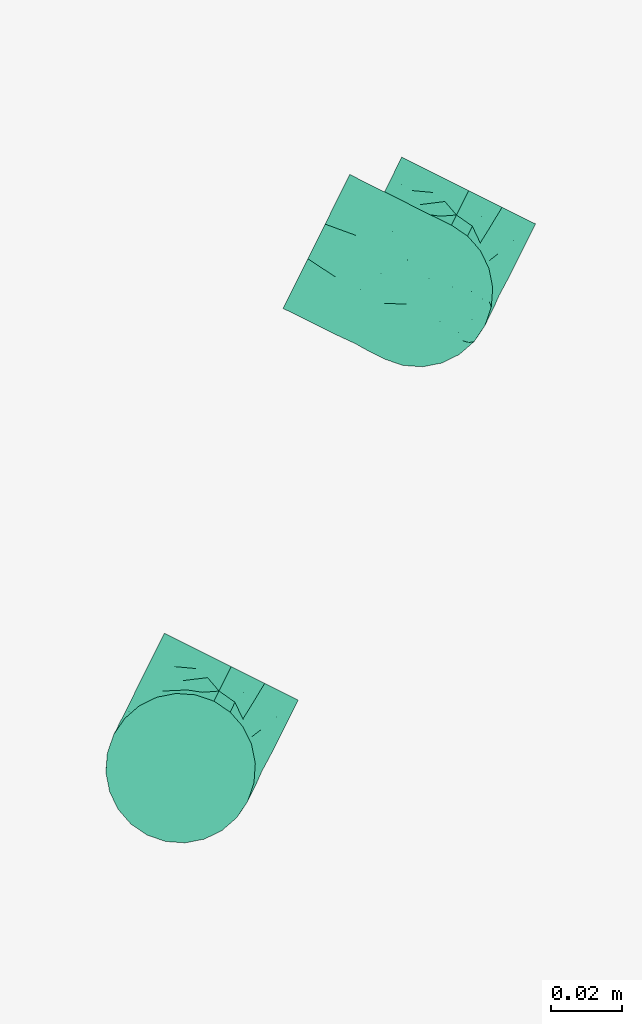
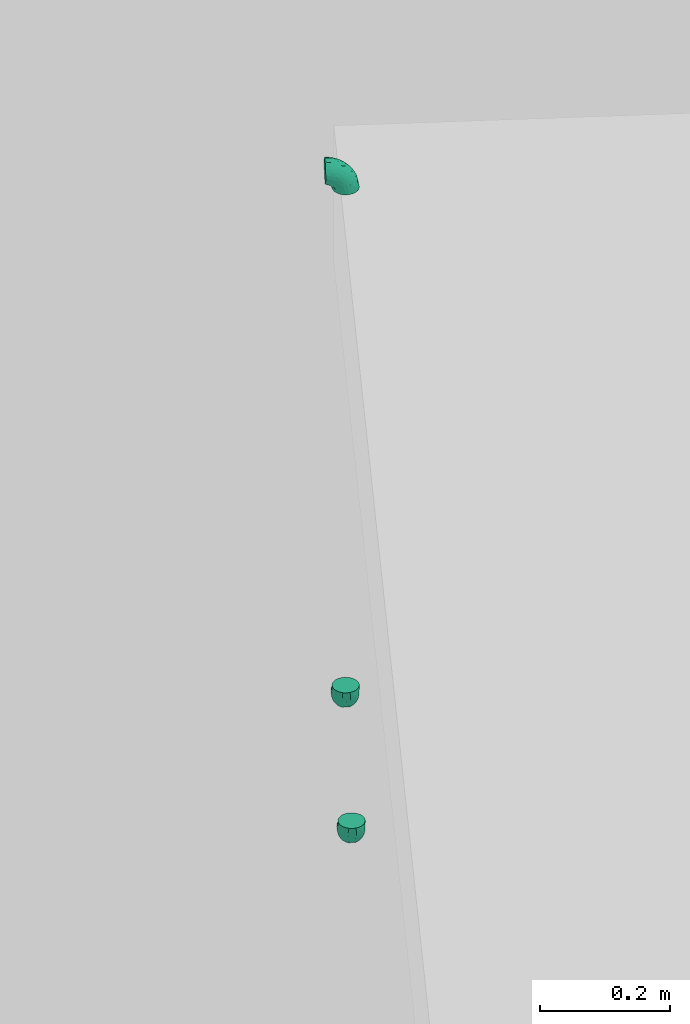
# One storey, part 38 of 47: 3 flow fittings.
"""IFC2X3 building model written with IfcOpenShell, lengths in metres."""

from ifc_helpers import new_model, entity, si_unit, converted_unit, derived_unit, direction, frame, origin, place, context, subcontext, project, spatial, faceted_brep, source, transform, mapped, type_object, type_shapes, element, save


model = new_model("IFC2X3")

# Units and contexts
model_context = context("Model", 3, precision=1e-05, world=origin(), true_north=direction((0.894925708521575, 0.446215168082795)))
context_of_model = context(None, 3, precision=1e-05, world=origin(), true_north=direction((0.894925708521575, 0.446215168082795)))
body_context = subcontext(model_context, "Body", "Model", "MODEL_VIEW")
ifc_project = project(units=[si_unit("LENGTHUNIT", "METRE"), si_unit("AREAUNIT", "SQUARE_METRE"), si_unit("VOLUMEUNIT", "CUBIC_METRE"), converted_unit("PLANEANGLEUNIT", "DEGREE", entity("IfcRatioMeasure", 0.0174532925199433), si_unit("PLANEANGLEUNIT", "RADIAN"), dimensions=[0, 0, 0, 0, 0, 0, 0]), si_unit("MASSUNIT", "GRAM", prefix="KILO"), si_unit("TIMEUNIT", "SECOND"), si_unit("FREQUENCYUNIT", "HERTZ"), si_unit("THERMODYNAMICTEMPERATUREUNIT", "DEGREE_CELSIUS"), derived_unit("THERMALTRANSMITTANCEUNIT", [(si_unit("MASSUNIT", "GRAM", prefix="KILO"), 1), (si_unit("THERMODYNAMICTEMPERATUREUNIT", "KELVIN"), -1), (si_unit("TIMEUNIT", "SECOND"), -3)]), derived_unit("VOLUMETRICFLOWRATEUNIT", [(si_unit("LENGTHUNIT", "METRE"), 3), (si_unit("TIMEUNIT", "SECOND"), -1)]), si_unit("ELECTRICCURRENTUNIT", "AMPERE"), si_unit("ELECTRICVOLTAGEUNIT", "VOLT"), si_unit("POWERUNIT", "WATT"), si_unit("FORCEUNIT", "NEWTON", prefix="KILO"), si_unit("ILLUMINANCEUNIT", "LUX"), si_unit("LUMINOUSFLUXUNIT", "LUMEN"), si_unit("LUMINOUSINTENSITYUNIT", "CANDELA"), si_unit("PRESSUREUNIT", "PASCAL")], contexts=[model_context, context_of_model])

# Site, building, storey
site_placement = place(None, frame((218.228324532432, 584.720189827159, 0.0), z_axis=(0.0, 0.0, 1.0), x_axis=(0.446215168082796, 0.894925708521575, 0.0)))
site = spatial("IfcSite", under=ifc_project, at=site_placement, Name="Default", CompositionType="ELEMENT")
building_placement = place(site_placement, origin())
building = spatial("IfcBuilding", under=site, at=building_placement, CompositionType="ELEMENT")
storey_placement = place(building_placement, frame((0.0, 0.0, 4.69)))
storey = spatial("IfcBuildingStorey", under=building, at=storey_placement, Name="1 - Piano Primo", CompositionType="ELEMENT", Elevation=4.69)

# Flow fittings
pipe_fitting_type = type_object("IfcPipeFittingType", Name="Standard", PredefinedType="NOTDEFINED")
shared_shape = source(origin(), body_context, "Body", "Brep", [
    faceted_brep([(-0.0319999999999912, 0.0105499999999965, -0.0182731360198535), (-0.0319999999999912, 0.00546108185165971, -0.0203810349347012), (-0.0319999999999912, 0.0, -0.0211000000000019), (-0.0319999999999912, -0.00546108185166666, -0.0203810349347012), (-0.0319999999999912, -0.0105500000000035, -0.0182731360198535), (-0.0319999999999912, -0.0149199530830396, -0.0149199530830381), (-0.0319999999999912, -0.0182731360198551, -0.0105500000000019), (-0.0319999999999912, -0.0203810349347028, -0.00546108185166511), (-0.0319999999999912, -0.0211000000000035, 0.0), (-0.0319999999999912, -0.0203810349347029, 0.00546108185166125), (-0.0319999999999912, -0.0182731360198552, 0.0105499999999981), (-0.0319999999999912, -0.0149199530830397, 0.0149199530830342), (-0.0319999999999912, -0.0105500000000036, 0.0182731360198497), (-0.0319999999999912, -0.00546108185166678, 0.0203810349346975), (-0.0319999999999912, 0.0, 0.0210999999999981), (-0.0319999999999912, 0.00546108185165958, 0.0203810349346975), (-0.0319999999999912, 0.00800554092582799, 0.0193270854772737), (-0.0319999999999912, 0.0105499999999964, 0.0182731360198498), (-0.0319999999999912, 0.0149199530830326, 0.0149199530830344), (-0.0319999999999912, 0.0182731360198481, 0.0105499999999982), (-0.0319999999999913, 0.0203810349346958, 0.00546108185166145), (-0.0319999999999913, 0.0210999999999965, 0.0), (-0.0319999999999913, 0.0203810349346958, -0.00546108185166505), (-0.0319999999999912, 0.0182731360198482, -0.0105500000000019), (-0.0319999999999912, 0.0149199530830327, -0.014919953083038), (0.0, 0.0319999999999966, -0.0211000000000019), (-0.00546108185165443, 0.0319999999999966, -0.0203810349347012), (-0.0105499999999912, 0.0319999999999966, -0.0182731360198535), (-0.0149199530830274, 0.0319999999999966, -0.014919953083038), (-0.0182731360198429, 0.0319999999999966, -0.0105500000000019), (-0.0203810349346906, 0.0319999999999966, -0.00546108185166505), (-0.0210999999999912, 0.0319999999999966, 0.0), (-0.0203810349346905, 0.0319999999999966, 0.00546108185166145), (-0.0182731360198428, 0.0319999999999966, 0.0105499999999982), (-0.0149199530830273, 0.0319999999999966, 0.0149199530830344), (-0.0105499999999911, 0.0319999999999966, 0.0182731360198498), (-0.00800554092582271, 0.0319999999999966, 0.0193270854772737), (-0.0054610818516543, 0.0319999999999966, 0.0203810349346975), (0.0, 0.0319999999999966, 0.0210999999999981), (0.00546108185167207, 0.0319999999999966, 0.0203810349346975), (0.0105500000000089, 0.0319999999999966, 0.0182731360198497), (0.014919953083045, 0.0319999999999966, 0.0149199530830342), (0.0165965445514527, 0.0319999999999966, 0.0127349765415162), (0.0182731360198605, 0.0319999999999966, 0.0105499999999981), (0.0203810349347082, 0.0319999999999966, 0.00546108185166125), (0.0211000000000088, 0.0319999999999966, 0.0), (0.0203810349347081, 0.0319999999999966, -0.00546108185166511), (0.0182731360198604, 0.0319999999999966, -0.0105500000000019), (0.0149199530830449, 0.0319999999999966, -0.0149199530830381), (0.0105500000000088, 0.0319999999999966, -0.0182731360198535), (0.00546108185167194, 0.0319999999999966, -0.0203810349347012), (-0.00222604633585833, 0.023728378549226, 0.0210713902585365), (0.00334042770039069, 0.0236615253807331, 0.0206549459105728), (-0.00900645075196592, -0.00960577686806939, 0.014276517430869), (-0.0209292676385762, -0.0130218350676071, 0.0154568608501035), (-0.0145908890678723, -0.0153912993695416, 0.0101692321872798), (-0.0217190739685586, -0.0190549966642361, 0.0), (-0.0220282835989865, -0.0191631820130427, 0.00633714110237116), (0.0170981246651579, 0.0147219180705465, 0.00657454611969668), (0.0192914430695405, 0.0230467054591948, 0.00652112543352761), (0.0165175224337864, 0.0200572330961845, 0.0110652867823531), (-0.0238201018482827, -0.0169140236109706, 0.0116484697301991), (0.00422109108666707, 0.00733524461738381, 0.0174775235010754), (-0.00183936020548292, -0.00157306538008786, 0.0165161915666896), (0.00494762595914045, 0.000859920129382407, 0.0133740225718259), (-0.0231100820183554, -0.0085835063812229, 0.0188172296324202), (-0.0268497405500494, 0.00624646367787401, 0.0203052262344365), (-0.0237283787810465, 0.00222604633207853, 0.0210713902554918), (0.00636919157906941, -0.00389652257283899, 0.00481660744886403), (0.00885765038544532, 0.00100436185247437, 0.00856309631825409), (0.00317363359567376, -0.0049364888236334, 0.00916667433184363), (0.0190549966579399, 0.021719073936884, 0.0), (-0.0249753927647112, 0.0127272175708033, 0.0176991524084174), (-0.0219437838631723, 0.00803535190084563, 0.0202256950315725), (-0.0080353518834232, 0.0219437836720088, 0.0202256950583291), (-0.0127272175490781, 0.0249753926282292, 0.017699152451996), (-0.0135012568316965, 0.0177999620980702, 0.0192321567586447), (-0.0259094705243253, 0.0169310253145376, 0.0140445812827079), (-0.0243638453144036, -0.00336513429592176, 0.0206817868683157), (-0.0083182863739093, -0.00215621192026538, 0.0188085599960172), (-0.0155459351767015, -0.00207489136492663, 0.0202758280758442), (-0.014962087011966, -0.00661982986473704, 0.0184646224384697), (-0.024116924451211, 0.0234834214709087, 0.00540852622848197), (-0.0260761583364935, 0.02023403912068, 0.00952662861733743), (0.0131866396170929, 0.0228304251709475, 0.0156902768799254), (0.0177597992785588, 0.0259911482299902, 0.0108087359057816), (-0.0196183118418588, 0.0196183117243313, 0.0153381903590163), (0.00836704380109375, 0.0205044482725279, 0.0185948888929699), (-0.0054260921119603, 0.0157915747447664, 0.0210819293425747), (-0.0119915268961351, 0.0119915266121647, 0.0207723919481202), (-0.00791438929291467, 0.00583732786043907, 0.0207972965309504), (-0.000718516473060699, -0.00512241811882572, 0.0130949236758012), (-0.0157915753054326, 0.00542609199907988, 0.0210819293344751), (-0.0175404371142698, 0.0125520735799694, 0.0196189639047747), (-0.00624646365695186, 0.0268497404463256, 0.0203052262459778), (-0.0030660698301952, -0.011302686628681, 0.0), (0.000544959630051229, -0.00927179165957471, 0.00474379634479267), (-0.00924044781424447, -0.0152715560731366, 0.00513668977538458), (-0.0025011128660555, 0.00396354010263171, 0.0192243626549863), (0.0111873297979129, 0.0121560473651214, 0.0142858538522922), (0.0142348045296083, 0.013520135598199, 0.0113438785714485), (-0.021173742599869, 0.0270533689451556, 0.00642753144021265), (0.0170580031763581, 0.0116795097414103, 0.0), (-0.0209433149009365, 0.0244619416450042, 0.0099283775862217), (-0.0169310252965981, 0.0259094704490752, 0.0140445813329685), (0.00815725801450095, 0.0134412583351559, 0.0171881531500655), (0.00158972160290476, 0.0138945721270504, 0.0201812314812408), (-0.0242925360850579, 0.0242925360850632, 0.0), (-0.0156139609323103, -0.0173765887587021, 0.00665048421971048), (-0.0116795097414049, -0.0170580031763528, 0.0), (0.00554737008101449, -0.00554737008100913, 0.0), (0.0113026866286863, 0.00306606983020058, 0.0), (0.0108450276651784, 0.00147671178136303, 0.0045400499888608), (0.0112958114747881, 0.00704585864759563, 0.0110546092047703), (-0.0180945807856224, 0.016544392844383, 0.0178760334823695), (-0.00497912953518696, -0.0112747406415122, 0.00913935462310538), (-0.00893572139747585, -0.00624353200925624, 0.0168798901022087), (-0.0156916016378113, 0.021034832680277, 0.0171095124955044), (-0.00342686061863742, 0.0112043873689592, 0.0208340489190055), (0.0134913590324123, 0.00703921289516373, 0.00704441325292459), (0.00841568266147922, 0.00627762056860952, 0.0138629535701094), (0.0139147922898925, 0.0140606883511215, -0.0120870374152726), (0.0170731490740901, 0.0143997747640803, -0.00631163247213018), (0.0133973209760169, 0.00669108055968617, -0.00679612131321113), (-0.0167699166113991, 0.00347561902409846, -0.0210973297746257), (-0.0230301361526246, 0.00785302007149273, -0.0201559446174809), (-0.0147344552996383, 0.0101848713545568, -0.0206819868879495), (-0.0249600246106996, 0.0021654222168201, -0.0210570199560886), (-0.0269235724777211, 0.0219306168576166, -0.00396891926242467), (-0.0108637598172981, -0.00653031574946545, -0.0173920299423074), (-0.0194617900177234, -0.00823414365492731, -0.018502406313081), (-0.0125598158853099, -0.00220699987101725, -0.0197802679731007), (-0.0268338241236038, 0.0205122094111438, -0.00828818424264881), (-0.024883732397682, 0.0171837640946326, -0.0142474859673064), (-0.0228721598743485, -0.0192710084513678, -0.00648971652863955), (-0.0193464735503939, -0.0164084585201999, -0.0109522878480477), (-0.0143997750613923, -0.0170731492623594, -0.00631163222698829), (-0.0266001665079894, -0.0170138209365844, -0.0120648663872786), (-0.00785301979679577, 0.0230301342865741, -0.0201559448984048), (-0.0252598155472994, 0.0126864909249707, -0.0176618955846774), (-0.0230841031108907, -0.0033100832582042, -0.0206322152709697), (-0.020019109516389, 0.0119073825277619, -0.0192649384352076), (-0.0225715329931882, -0.0131689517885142, -0.0156588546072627), (0.0164084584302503, 0.0193464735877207, -0.0109522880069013), (0.0170138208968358, 0.0266001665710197, -0.0120648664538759), (0.019271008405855, 0.0228721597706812, -0.00648971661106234), (-0.0105318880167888, -0.0106441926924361, -0.0140486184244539), (-0.017183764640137, 0.0248837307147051, -0.014247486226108), (-0.0266864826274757, -0.0086126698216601, -0.0191036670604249), (0.0033100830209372, 0.0230841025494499, -0.0206322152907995), (-0.0222937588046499, 0.0222937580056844, -0.0105497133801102), (-0.020353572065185, 0.0203535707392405, -0.0142844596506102), (-0.0221527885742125, 0.0262370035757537, -0.00460941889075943), (-0.00807833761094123, 0.00807833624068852, -0.0210204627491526), (-0.0126864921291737, 0.0252598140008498, -0.0176618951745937), (-0.0021654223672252, 0.0249600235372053, -0.0210570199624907), (0.0131689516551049, 0.022571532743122, -0.0156588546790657), (-0.0202234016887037, 0.0270426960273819, -0.00870077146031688), (0.00220699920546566, 0.0125598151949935, -0.0197802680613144), (0.00404629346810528, 0.00564706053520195, -0.0168858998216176), (-0.00350668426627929, 0.00350668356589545, -0.0194008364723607), (0.00861266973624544, 0.0266864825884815, -0.019103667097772), (0.00823414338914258, 0.019461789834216, -0.0185024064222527), (0.00902992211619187, 0.00178506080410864, -0.00926949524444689), (0.00883192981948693, -0.00110649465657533, -0.00471271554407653), (-0.00347562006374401, 0.0167699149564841, -0.0210973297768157), (0.0120396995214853, 0.00786660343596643, -0.010643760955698), (-0.00165984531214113, -0.00597168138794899, -0.0130195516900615), (-0.00858690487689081, -0.0124343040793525, -0.0106324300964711), (0.0106441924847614, 0.0105318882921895, -0.0140486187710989), (0.00627836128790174, 0.0123278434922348, -0.0179828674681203), (-0.0164380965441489, 0.0206141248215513, -0.0168366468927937), (-0.0160857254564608, 0.0160857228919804, -0.0188434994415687), (-0.0206141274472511, 0.0164380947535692, -0.0168366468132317), (-0.0106154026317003, 0.0161949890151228, -0.0203950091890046), (-0.00669108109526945, -0.0133973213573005, -0.00679612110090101), (0.00175955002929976, -0.00801862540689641, -0.00555203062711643), (-0.00301871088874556, -0.00338565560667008, -0.0160140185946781), (0.0034281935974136, -0.00342819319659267, -0.0108392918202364), (-0.00243028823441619, -0.00914614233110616, -0.00983204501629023), (-0.00670255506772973, -0.00186855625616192, -0.0184300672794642), (0.00640730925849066, 0.00275638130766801, -0.0134309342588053)], [[[0, 1, 2, 3, 4, 5, 6, 7, 8, 9, 10, 11, 12, 13, 14, 15, 16, 17, 18, 19, 20, 21, 22, 23, 24]], [[25, 26, 27, 28, 29, 30, 31, 32, 33, 34, 35, 36, 37, 38, 39, 40, 41, 42, 43, 44, 45, 46, 47, 48, 49, 50]], [[38, 51, 52]], [[53, 54, 55]], [[9, 56, 57]], [[58, 59, 60]], [[61, 11, 10]], [[9, 8, 56]], [[62, 63, 64]], [[54, 11, 61]], [[54, 65, 12]], [[17, 16, 15, 66]], [[15, 14, 67]], [[68, 69, 70]], [[45, 44, 71]], [[72, 66, 73]], [[74, 75, 76]], [[77, 19, 18]], [[78, 14, 13]], [[66, 72, 17]], [[79, 80, 81]], [[82, 20, 83]], [[84, 85, 41]], [[21, 20, 82]], [[83, 77, 86]], [[87, 84, 40]], [[72, 18, 17]], [[88, 89, 90]], [[70, 64, 91]], [[73, 92, 93]], [[39, 38, 52]], [[73, 67, 92]], [[84, 41, 40]], [[40, 39, 87]], [[36, 35, 94, 37]], [[59, 44, 43]], [[95, 96, 97]], [[35, 34, 75]], [[63, 62, 98]], [[85, 59, 43]], [[64, 70, 69]], [[74, 88, 51]], [[99, 100, 84]], [[101, 33, 32]], [[59, 102, 71]], [[103, 86, 104]], [[105, 106, 62]], [[82, 101, 107]], [[9, 57, 10]], [[94, 35, 75]], [[77, 83, 19]], [[97, 108, 109]], [[34, 33, 104]], [[51, 38, 37]], [[107, 101, 31]], [[12, 65, 13]], [[54, 12, 11]], [[110, 111, 112]], [[100, 99, 113]], [[109, 57, 56]], [[57, 108, 61]], [[104, 75, 34]], [[74, 76, 89]], [[88, 74, 89]], [[106, 87, 52]], [[78, 67, 14]], [[80, 90, 92]], [[93, 89, 76]], [[72, 114, 77]], [[70, 91, 115]], [[63, 79, 116]], [[115, 53, 55]], [[70, 96, 68]], [[58, 60, 100]], [[71, 44, 59]], [[84, 87, 105]], [[85, 43, 42, 41]], [[81, 54, 53]], [[65, 81, 78]], [[106, 52, 51]], [[87, 39, 52]], [[103, 104, 33]], [[104, 86, 117]], [[72, 77, 18]], [[83, 86, 103]], [[82, 83, 103]], [[20, 19, 83]], [[57, 61, 10]], [[54, 61, 55]], [[101, 82, 103]], [[82, 107, 21]], [[65, 78, 13]], [[67, 78, 80]], [[86, 114, 117]], [[114, 72, 93]], [[92, 89, 93]], [[106, 51, 88]], [[98, 79, 63]], [[118, 88, 90]], [[80, 92, 67]], [[90, 89, 92]], [[119, 102, 58]], [[102, 59, 58]], [[114, 93, 76]], [[72, 73, 93]], [[55, 97, 115]], [[96, 70, 115]], [[108, 97, 55]], [[96, 110, 68]], [[95, 97, 109]], [[97, 96, 115]], [[110, 96, 95]], [[112, 119, 69]], [[68, 112, 69]], [[119, 113, 69]], [[102, 119, 111]], [[64, 63, 91]], [[113, 64, 69]], [[118, 98, 106]], [[113, 120, 64]], [[62, 120, 105]], [[119, 58, 100]], [[113, 99, 120]], [[100, 113, 119]], [[84, 100, 60]], [[110, 112, 68]], [[111, 119, 112]], [[117, 76, 75]], [[114, 86, 77]], [[76, 117, 114]], [[104, 117, 75]], [[106, 98, 62]], [[79, 90, 80]], [[90, 79, 98]], [[78, 81, 80]], [[54, 81, 65]], [[116, 79, 81]], [[105, 120, 99]], [[62, 64, 120]], [[116, 91, 63]], [[115, 91, 53]], [[81, 53, 116]], [[116, 53, 91]], [[94, 75, 74]], [[74, 51, 94]], [[51, 37, 94]], [[73, 66, 67]], [[15, 67, 66]], [[85, 84, 60]], [[59, 85, 60]], [[33, 101, 103]], [[31, 101, 32]], [[98, 118, 90]], [[106, 88, 118]], [[61, 108, 55]], [[109, 108, 57]], [[84, 105, 99]], [[106, 105, 87]], [[121, 122, 123]], [[124, 125, 126]], [[124, 127, 125]], [[127, 2, 1]], [[21, 128, 22]], [[129, 130, 131]], [[132, 133, 23]], [[134, 135, 136]], [[24, 23, 133]], [[5, 137, 6]], [[26, 138, 27]], [[0, 24, 139]], [[109, 56, 134]], [[140, 3, 2]], [[134, 7, 6]], [[125, 141, 126]], [[142, 5, 4]], [[143, 144, 145]], [[135, 142, 146]], [[29, 28, 147]], [[137, 134, 6]], [[4, 148, 142]], [[148, 140, 130]], [[148, 4, 3]], [[50, 149, 25]], [[130, 140, 131]], [[21, 107, 128]], [[150, 151, 133]], [[31, 30, 152]], [[46, 45, 71]], [[126, 153, 124]], [[132, 22, 128]], [[154, 147, 28]], [[26, 155, 138]], [[26, 25, 155]], [[48, 156, 49]], [[144, 48, 47]], [[150, 157, 147]], [[158, 159, 160]], [[161, 149, 50]], [[161, 156, 162]], [[125, 1, 0]], [[163, 123, 164]], [[165, 149, 158]], [[157, 150, 152]], [[161, 50, 49]], [[139, 24, 133]], [[145, 122, 143]], [[121, 123, 166]], [[56, 8, 7]], [[146, 167, 168]], [[169, 162, 156]], [[159, 158, 170]], [[47, 46, 145]], [[171, 172, 173]], [[150, 132, 152]], [[28, 27, 154]], [[165, 153, 174]], [[151, 150, 147]], [[139, 141, 125]], [[123, 102, 111]], [[95, 175, 176]], [[164, 123, 111]], [[159, 177, 160]], [[178, 176, 179]], [[178, 164, 176]], [[144, 156, 48]], [[156, 143, 121]], [[158, 149, 162]], [[155, 149, 165]], [[170, 169, 159]], [[158, 160, 153]], [[146, 142, 130]], [[137, 142, 135]], [[127, 140, 2]], [[124, 153, 131]], [[124, 131, 140]], [[180, 129, 131]], [[168, 136, 135]], [[56, 7, 134]], [[46, 71, 145]], [[102, 145, 71]], [[27, 138, 154]], [[154, 138, 174]], [[173, 133, 151]], [[125, 0, 139]], [[169, 166, 181]], [[178, 179, 167]], [[177, 159, 181]], [[146, 130, 129]], [[125, 127, 1]], [[140, 127, 124]], [[149, 155, 25]], [[138, 155, 165]], [[174, 126, 172]], [[126, 174, 153]], [[158, 153, 165]], [[131, 153, 160]], [[175, 109, 136]], [[109, 134, 136]], [[145, 102, 122]], [[102, 123, 122]], [[152, 128, 107]], [[128, 152, 132]], [[31, 152, 107]], [[152, 30, 157]], [[133, 132, 150]], [[23, 22, 132]], [[30, 29, 157]], [[147, 157, 29]], [[154, 174, 172]], [[165, 174, 138]], [[176, 164, 110]], [[164, 111, 110]], [[163, 164, 178]], [[95, 109, 175]], [[176, 175, 179]], [[176, 110, 95]], [[181, 163, 178]], [[166, 123, 163]], [[181, 178, 167]], [[169, 181, 159]], [[181, 166, 163]], [[121, 166, 169]], [[156, 121, 169]], [[122, 121, 143]], [[168, 179, 175]], [[167, 146, 177]], [[136, 168, 175]], [[135, 146, 168]], [[167, 179, 168]], [[181, 167, 177]], [[180, 131, 160]], [[146, 129, 177]], [[160, 177, 180]], [[177, 129, 180]], [[156, 161, 49]], [[149, 161, 162]], [[145, 144, 47]], [[156, 144, 143]], [[140, 148, 3]], [[142, 148, 130]], [[142, 137, 5]], [[134, 137, 135]], [[171, 151, 147]], [[151, 171, 173]], [[147, 154, 171]], [[154, 172, 171]], [[141, 173, 172]], [[139, 133, 173]], [[173, 141, 139]], [[126, 141, 172]], [[158, 162, 170]], [[169, 170, 162]]]),
])
type_shapes(pipe_fitting_type, [shared_shape])
for number, where, z_axis, x_axis, name in (
    (1, (-0.313569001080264, -12.4160789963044, 5.76999999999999), (-1.0, 0.0, 0.0), (0.0, 0.0, 1.0), "M_Gomito - Saldato - Generico:Standard"),
    (2, (-0.313569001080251, -12.4160789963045, 4.77), (0.0, -1.0, 0.0), (0.0, 0.0, -1.0), "M_Gomito - Saldato - Generico:Standard"),
    (3, (-0.463569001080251, -12.4160789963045, 4.62000000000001), (0.0, -1.0, 0.0), (0.0, 0.0, -1.0), "M_Gomito - Saldato - Generico:Standard"),
):
    element("IfcFlowFitting", number, at=place(storey_placement, frame(where, z_axis=z_axis, x_axis=x_axis)), inside=storey, type_object=pipe_fitting_type, Name=name, ObjectType="Standard", context=body_context, shape_type="MappedRepresentation", body=[
        mapped(shared_shape, transform((0.0, 0.0, 0.0), scale=1.0)),
    ])

save(model, "model.ifc")
